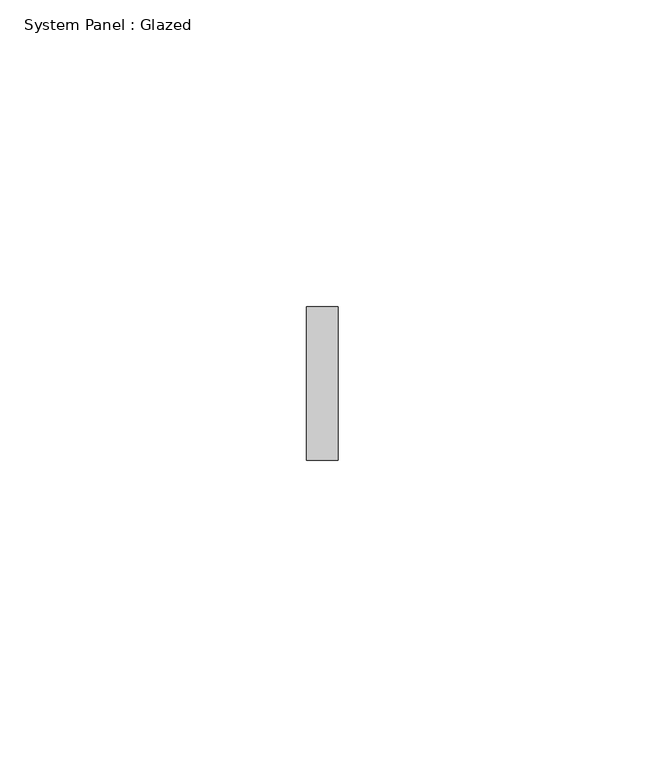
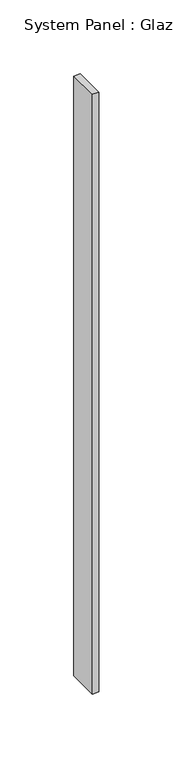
"""IFC4 building model written with IfcOpenShell, lengths in millimetres: plate geometry, System Panel : Glazed."""

from ifc_helpers import new_model, si_unit, origin, origin_with_axes, place, context, project, spatial, polyline, outline, extrude, source, transform, mapped, element, save


def system_panel_glazed_54347527(model_context):
    return source(origin(), model_context, "Body", "SweptSolid", [
        extrude(outline(polyline([(2.5331169, -12.5), (-2.5331169, -12.5), (-2.5331169, 12.5), (2.5331169, 12.5), (2.5331169, -12.5)])), origin_with_axes(), (0.0, 0.0, 1.0), 495.0),
    ])


if __name__ == "__main__":
    model = new_model("IFC4")
    model_context = context("Model", 3, world=origin())
    ifc_project = project(units=[si_unit("LENGTHUNIT", "METRE", prefix="MILLI")], contexts=[model_context])
    site = spatial("IfcSite", under=ifc_project)
    building = spatial("IfcBuilding", under=site)
    placement = place(None, origin())
    system_panel_glazed_shape = system_panel_glazed_54347527(model_context)
    element("IfcPlate", 1, ObjectType="System Panel : Glazed", at=placement, inside=building, context=model_context, shape_type="MappedRepresentation", body=[
        mapped(system_panel_glazed_shape, transform((0.0, 0.0, 0.0), x_axis=(1.0, 0.0, 0.0), y_axis=(0.0, 1.0, 0.0), z_axis=(0.0, 0.0, 1.0))),
    ])
    save(model, "model.ifc")
